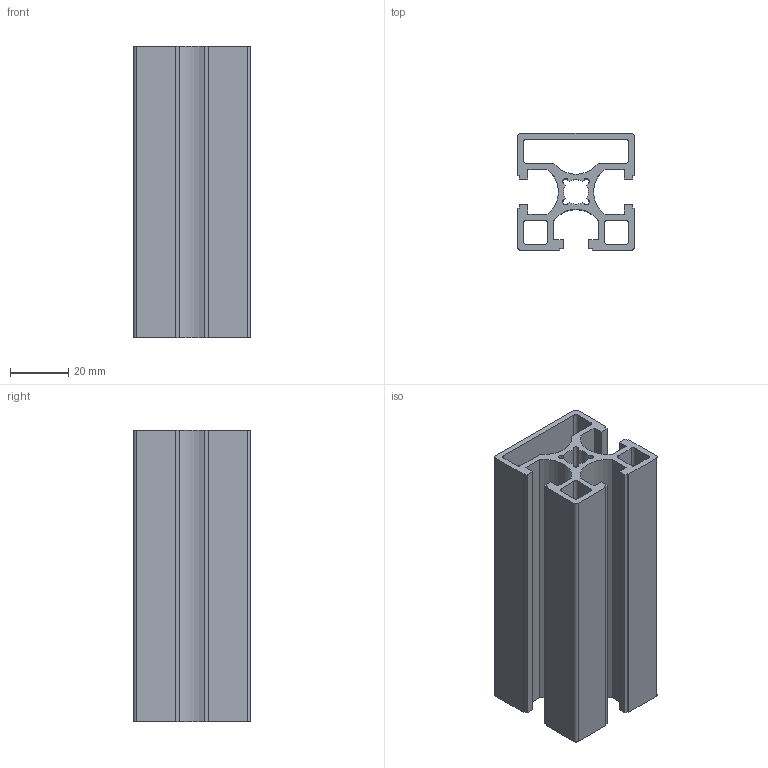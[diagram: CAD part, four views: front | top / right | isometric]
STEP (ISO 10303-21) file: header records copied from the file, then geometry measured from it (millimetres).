
FILE_DESCRIPTION(/* description */ (''),/* implementation_level */ '2;1');
FILE_NAME(/* name */ 'C:\Users\Owner\Documents\硯聰\Inv材料庫-3D新型錄-2019整理\01.AM-鋁擠\8系列\AM8-4040F1_100L.stp',/* time_stamp */ '2019-03-13T09:13:13+08:00',/* author */ ('Owner'),/* organization */ (''),/* preprocessor_version */ 'ST-DEVELOPER v16.1',/* originating_system */ 'Autodesk Inventor 2016',/* authorisation */ '');
FILE_SCHEMA (('AUTOMOTIVE_DESIGN { 1 0 10303 214 3 1 1 }'));
Length unit declared in the file: millimetre
Products named in the file (1): 零件219
Bounding box: 40 x 40 x 100 mm (x, y, z)
Volume: 53138.8 mm3; surface area: 46744.5 mm2
Topology: 1 solids, 1 shells, 88 faces, 258 edges, 172 vertices
Faces by surface type: plane 60, cylinder 28
Entity records: 2958 total; most frequent: CARTESIAN_POINT 519, ORIENTED_EDGE 516, DIRECTION 492, EDGE_CURVE 258, LINE 202, VECTOR 202, VERTEX_POINT 172, AXIS2_PLACEMENT_3D 145
